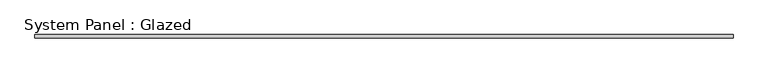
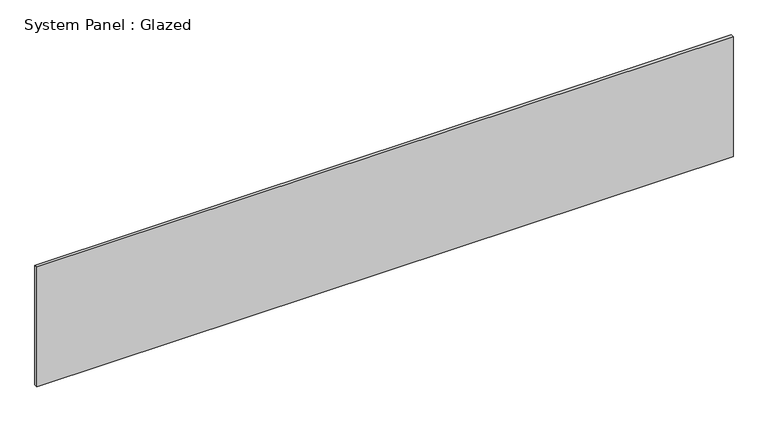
"""IFC4 building model written with IfcOpenShell, lengths in millimetres: plate geometry, System Panel : Glazed."""

from ifc_helpers import new_model, si_unit, origin, origin_with_axes, place, context, project, spatial, polyline, outline, extrude, source, transform, mapped, element, save


def system_panel_glazed_eda290e2(model_context):
    return source(origin(), model_context, "Body", "SweptSolid", [
        extrude(outline(polyline([(2747.8074821, 24.5), (-2747.8074821, 24.5), (-2747.8074821, 49.5), (2747.8074821, 49.5), (2747.8074821, 24.5)])), origin_with_axes(), (0.0, 0.0, 1.0), 1000.0),
    ])


if __name__ == "__main__":
    model = new_model("IFC4")
    model_context = context("Model", 3, world=origin())
    ifc_project = project(units=[si_unit("LENGTHUNIT", "METRE", prefix="MILLI")], contexts=[model_context])
    site = spatial("IfcSite", under=ifc_project)
    building = spatial("IfcBuilding", under=site)
    placement = place(None, origin())
    system_panel_glazed_shape = system_panel_glazed_eda290e2(model_context)
    element("IfcPlate", 1, ObjectType="System Panel : Glazed", at=placement, inside=building, context=model_context, shape_type="MappedRepresentation", body=[
        mapped(system_panel_glazed_shape, transform((0.0, 0.0, 0.0), x_axis=(1.0, 0.0, 0.0), y_axis=(0.0, 1.0, 0.0), z_axis=(0.0, 0.0, 1.0))),
    ])
    save(model, "model.ifc")
